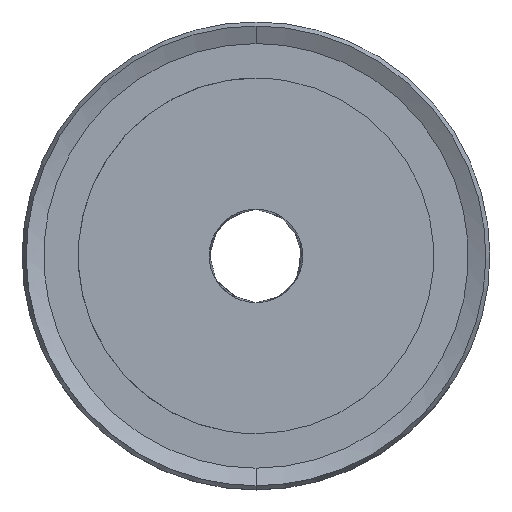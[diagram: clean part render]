
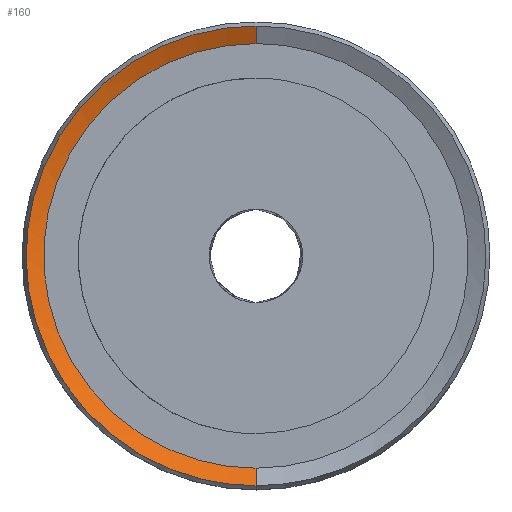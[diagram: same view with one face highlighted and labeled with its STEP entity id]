
A CAD part, top view. The second image highlights one B-rep face of the part: STEP entity #160.
In plain terms, the highlighted free-form (B-spline) face has degree [1, 2] with [2, 9] control points.
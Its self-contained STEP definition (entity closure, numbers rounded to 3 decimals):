
#36=PLANE('',#18579);
#160=ADVANCED_FACE('',(#661),#18093,.T.);
#661=FACE_OUTER_BOUND('',#1165,.T.);
#1165=EDGE_LOOP('',(#1850,#1851,#1852,#1853));
#1850=ORIENTED_EDGE('',*,*,#13362,.T.);
#1851=ORIENTED_EDGE('',*,*,#13363,.T.);
#1852=ORIENTED_EDGE('',*,*,#13364,.T.);
#1853=ORIENTED_EDGE('',*,*,#13359,.F.);
#4537=(
BOUNDED_CURVE()
B_SPLINE_CURVE(2,(#29502,#29503,#29504,#29505,#29506),.UNSPECIFIED.,.F.,
 .F.)
B_SPLINE_CURVE_WITH_KNOTS((3,2,3),(-8.283,-6.712,-5.142),
 .UNSPECIFIED.)
CURVE()
GEOMETRIC_REPRESENTATION_ITEM()
RATIONAL_B_SPLINE_CURVE((1.,0.707,1.,0.707,1.))
REPRESENTATION_ITEM('')
);
#4538=(
BOUNDED_CURVE()
B_SPLINE_CURVE(2,(#29507,#29508,#29509,#29510,#29511),.UNSPECIFIED.,.F.,
 .F.)
B_SPLINE_CURVE_WITH_KNOTS((3,2,3),(-8.283,-6.712,-5.142),
 .UNSPECIFIED.)
CURVE()
GEOMETRIC_REPRESENTATION_ITEM()
RATIONAL_B_SPLINE_CURVE((1.,0.707,1.,0.707,1.))
REPRESENTATION_ITEM('')
);
#4544=(
BOUNDED_CURVE()
B_SPLINE_CURVE(2,(#29541,#29542,#29543,#29544,#29545),.UNSPECIFIED.,.F.,
 .F.)
B_SPLINE_CURVE_WITH_KNOTS((3,2,3),(1.,2.571,4.142),
 .UNSPECIFIED.)
CURVE()
GEOMETRIC_REPRESENTATION_ITEM()
RATIONAL_B_SPLINE_CURVE((1.,0.707,1.,0.707,1.))
REPRESENTATION_ITEM('')
);
#6414=PCURVE('',#36,#9234);
#6418=PCURVE('',#18093,#9238);
#6419=PCURVE('',#18093,#9239);
#6420=PCURVE('',#18093,#9240);
#6421=PCURVE('',#18093,#9241);
#8897=PCURVE('',#18509,#11717);
#8898=PCURVE('',#18510,#11718);
#8900=PCURVE('',#18510,#11720);
#9234=DEFINITIONAL_REPRESENTATION('',(#4538),#40772);
#9238=DEFINITIONAL_REPRESENTATION('',(#14899),#40772);
#9239=DEFINITIONAL_REPRESENTATION('',(#14900),#40772);
#9240=DEFINITIONAL_REPRESENTATION('',(#14902),#40772);
#9241=DEFINITIONAL_REPRESENTATION('',(#14903),#40772);
#11717=DEFINITIONAL_REPRESENTATION('',(#17029),#40772);
#11718=DEFINITIONAL_REPRESENTATION('',(#17030),#40772);
#11720=DEFINITIONAL_REPRESENTATION('',(#17032),#40772);
#11949=SURFACE_CURVE('',#4537,(#6414,#6421),.PCURVE_S1.);
#11952=SURFACE_CURVE('',#14898,(#6418,#8898),.PCURVE_S1.);
#11953=SURFACE_CURVE('',#4544,(#6419,#8897),.PCURVE_S1.);
#11954=SURFACE_CURVE('',#14901,(#6420,#8900),.PCURVE_S1.);
#13359=EDGE_CURVE('',#17203,#17206,#11949,.T.);
#13362=EDGE_CURVE('',#17203,#17204,#11952,.T.);
#13363=EDGE_CURVE('',#17204,#17205,#11953,.T.);
#13364=EDGE_CURVE('',#17205,#17206,#11954,.T.);
#14898=B_SPLINE_CURVE_WITH_KNOTS('',1,(#29537,#29538),.UNSPECIFIED.,.F.,
 .F.,(2,2),(0.,1.),.UNSPECIFIED.);
#14899=B_SPLINE_CURVE_WITH_KNOTS('',1,(#29539,#29540),.UNSPECIFIED.,.F.,
 .F.,(2,2),(0.,1.),.UNSPECIFIED.);
#14900=B_SPLINE_CURVE_WITH_KNOTS('',1,(#29546,#29547),.UNSPECIFIED.,.F.,
 .F.,(2,2),(1.,4.142),.UNSPECIFIED.);
#14901=B_SPLINE_CURVE_WITH_KNOTS('',1,(#29548,#29549),.UNSPECIFIED.,.F.,
 .F.,(2,2),(4.142,5.142),.UNSPECIFIED.);
#14902=B_SPLINE_CURVE_WITH_KNOTS('',1,(#29550,#29551),.UNSPECIFIED.,.F.,
 .F.,(2,2),(4.142,5.142),.UNSPECIFIED.);
#14903=B_SPLINE_CURVE_WITH_KNOTS('',1,(#29552,#29553),.UNSPECIFIED.,.F.,
 .F.,(2,2),(-8.283,-5.142),.UNSPECIFIED.);
#17029=B_SPLINE_CURVE_WITH_KNOTS('',1,(#39745,#39746),.UNSPECIFIED.,.F.,
 .F.,(2,2),(1.,4.142),.UNSPECIFIED.);
#17030=B_SPLINE_CURVE_WITH_KNOTS('',1,(#39747,#39748),.UNSPECIFIED.,.F.,
 .F.,(2,2),(0.,1.),.UNSPECIFIED.);
#17032=B_SPLINE_CURVE_WITH_KNOTS('',1,(#39751,#39752),.UNSPECIFIED.,.F.,
 .F.,(2,2),(4.142,5.142),.UNSPECIFIED.);
#17203=VERTEX_POINT('',#28546);
#17204=VERTEX_POINT('',#28547);
#17205=VERTEX_POINT('',#28548);
#17206=VERTEX_POINT('',#28549);
#18093=(
BOUNDED_SURFACE()
B_SPLINE_SURFACE(1,2,((#20986,#20987,#20988,#20989,#20990,#20991,#20992,
#20993,#20994),(#20995,#20996,#20997,#20998,#20999,#21000,#21001,#21002,
#21003)),.UNSPECIFIED.,.F.,.F.,.F.)
B_SPLINE_SURFACE_WITH_KNOTS((2,2),(3,2,2,2,3),(0.,1.),(0.,1.571,
3.142,4.712,6.283),.UNSPECIFIED.)
GEOMETRIC_REPRESENTATION_ITEM()
RATIONAL_B_SPLINE_SURFACE(((1.,0.707,1.,0.707,1.,
0.707,1.,0.707,1.),(1.,0.707,1.,0.707,
1.,0.707,1.,0.707,1.)))
REPRESENTATION_ITEM('')
SURFACE()
);
#18509=(
BOUNDED_SURFACE()
B_SPLINE_SURFACE(1,2,((#28479,#28480,#28481,#28482,#28483,#28484,#28485,
#28486,#28487),(#28488,#28489,#28490,#28491,#28492,#28493,#28494,#28495,
#28496)),.UNSPECIFIED.,.F.,.F.,.F.)
B_SPLINE_SURFACE_WITH_KNOTS((2,2),(3,2,2,2,3),(0.,1.),(0.,1.571,
3.142,4.712,6.283),.UNSPECIFIED.)
GEOMETRIC_REPRESENTATION_ITEM()
RATIONAL_B_SPLINE_SURFACE(((1.,0.707,1.,0.707,1.,
0.707,1.,0.707,1.),(1.,0.707,1.,0.707,
1.,0.707,1.,0.707,1.)))
REPRESENTATION_ITEM('')
SURFACE()
);
#18510=(
BOUNDED_SURFACE()
B_SPLINE_SURFACE(1,2,((#28497,#28498,#28499,#28500,#28501,#28502,#28503,
#28504,#28505),(#28506,#28507,#28508,#28509,#28510,#28511,#28512,#28513,
#28514)),.UNSPECIFIED.,.F.,.F.,.F.)
B_SPLINE_SURFACE_WITH_KNOTS((2,2),(3,2,2,2,3),(0.,1.),(0.,1.571,
3.142,4.712,6.283),.UNSPECIFIED.)
GEOMETRIC_REPRESENTATION_ITEM()
RATIONAL_B_SPLINE_SURFACE(((1.,0.707,1.,0.707,1.,
0.707,1.,0.707,1.),(1.,0.707,1.,0.707,
1.,0.707,1.,0.707,1.)))
REPRESENTATION_ITEM('')
SURFACE()
);
#18579=AXIS2_PLACEMENT_3D('',#20985,#18610,$);
#18610=DIRECTION('',(0.,0.,1.));
#20985=CARTESIAN_POINT('',(22.692,-22.692,22.));
#20986=CARTESIAN_POINT('',(0.,34.743,27.793));
#20987=CARTESIAN_POINT('',(34.743,34.743,27.793));
#20988=CARTESIAN_POINT('',(34.743,0.,27.793));
#20989=CARTESIAN_POINT('',(34.743,-34.743,27.793));
#20990=CARTESIAN_POINT('',(0.,-34.743,27.793));
#20991=CARTESIAN_POINT('',(-34.743,-34.743,27.793));
#20992=CARTESIAN_POINT('',(-34.743,0.,27.793));
#20993=CARTESIAN_POINT('',(-34.743,34.743,27.793));
#20994=CARTESIAN_POINT('',(0.,34.743,27.793));
#20995=CARTESIAN_POINT('',(0.,0.,11.09));
#20996=CARTESIAN_POINT('',(0.,0.,11.09));
#20997=CARTESIAN_POINT('',(0.,0.,11.09));
#20998=CARTESIAN_POINT('',(0.,0.,11.09));
#20999=CARTESIAN_POINT('',(0.,0.,11.09));
#21000=CARTESIAN_POINT('',(0.,0.,11.09));
#21001=CARTESIAN_POINT('',(0.,0.,11.09));
#21002=CARTESIAN_POINT('',(0.,0.,11.09));
#21003=CARTESIAN_POINT('',(0.,0.,11.09));
#28479=CARTESIAN_POINT('',(0.,24.567,22.901));
#28480=CARTESIAN_POINT('',(-24.567,24.567,22.901));
#28481=CARTESIAN_POINT('',(-24.567,0.,22.901));
#28482=CARTESIAN_POINT('',(-24.567,-24.567,22.901));
#28483=CARTESIAN_POINT('',(0.,-24.567,22.901));
#28484=CARTESIAN_POINT('',(24.567,-24.567,22.901));
#28485=CARTESIAN_POINT('',(24.567,0.,22.901));
#28486=CARTESIAN_POINT('',(24.567,24.567,22.901));
#28487=CARTESIAN_POINT('',(0.,24.567,22.901));
#28488=CARTESIAN_POINT('',(0.,25.,22.));
#28489=CARTESIAN_POINT('',(-25.,25.,22.));
#28490=CARTESIAN_POINT('',(-25.,0.,22.));
#28491=CARTESIAN_POINT('',(-25.,-25.,22.));
#28492=CARTESIAN_POINT('',(0.,-25.,22.));
#28493=CARTESIAN_POINT('',(25.,-25.,22.));
#28494=CARTESIAN_POINT('',(25.,0.,22.));
#28495=CARTESIAN_POINT('',(25.,25.,22.));
#28496=CARTESIAN_POINT('',(0.,25.,22.));
#28497=CARTESIAN_POINT('',(0.,34.743,27.793));
#28498=CARTESIAN_POINT('',(34.743,34.743,27.793));
#28499=CARTESIAN_POINT('',(34.743,0.,27.793));
#28500=CARTESIAN_POINT('',(34.743,-34.743,27.793));
#28501=CARTESIAN_POINT('',(0.,-34.743,27.793));
#28502=CARTESIAN_POINT('',(-34.743,-34.743,27.793));
#28503=CARTESIAN_POINT('',(-34.743,0.,27.793));
#28504=CARTESIAN_POINT('',(-34.743,34.743,27.793));
#28505=CARTESIAN_POINT('',(0.,34.743,27.793));
#28506=CARTESIAN_POINT('',(0.,0.,11.09));
#28507=CARTESIAN_POINT('',(0.,0.,11.09));
#28508=CARTESIAN_POINT('',(0.,0.,11.09));
#28509=CARTESIAN_POINT('',(0.,0.,11.09));
#28510=CARTESIAN_POINT('',(0.,0.,11.09));
#28511=CARTESIAN_POINT('',(0.,0.,11.09));
#28512=CARTESIAN_POINT('',(0.,0.,11.09));
#28513=CARTESIAN_POINT('',(0.,0.,11.09));
#28514=CARTESIAN_POINT('',(0.,0.,11.09));
#28546=CARTESIAN_POINT('',(0.,22.692,22.));
#28547=CARTESIAN_POINT('',(0.,24.567,22.901));
#28548=CARTESIAN_POINT('',(0.,-24.567,22.901));
#28549=CARTESIAN_POINT('',(0.,-22.692,22.));
#29502=CARTESIAN_POINT('',(0.,22.692,22.));
#29503=CARTESIAN_POINT('',(-22.692,22.692,22.));
#29504=CARTESIAN_POINT('',(-22.692,0.,22.));
#29505=CARTESIAN_POINT('',(-22.692,-22.692,22.));
#29506=CARTESIAN_POINT('',(0.,-22.692,22.));
#29507=CARTESIAN_POINT('',(1.,0.5));
#29508=CARTESIAN_POINT('',(1.,1.));
#29509=CARTESIAN_POINT('',(0.5,1.));
#29510=CARTESIAN_POINT('',(0.,1.));
#29511=CARTESIAN_POINT('',(0.,0.5));
#29537=CARTESIAN_POINT('',(0.,22.692,22.));
#29538=CARTESIAN_POINT('',(0.,24.567,22.901));
#29539=CARTESIAN_POINT('',(0.347,6.283));
#29540=CARTESIAN_POINT('',(0.293,6.283));
#29541=CARTESIAN_POINT('',(0.,24.567,22.901));
#29542=CARTESIAN_POINT('',(-24.567,24.567,22.901));
#29543=CARTESIAN_POINT('',(-24.567,0.,22.901));
#29544=CARTESIAN_POINT('',(-24.567,-24.567,22.901));
#29545=CARTESIAN_POINT('',(0.,-24.567,22.901));
#29546=CARTESIAN_POINT('',(0.293,6.283));
#29547=CARTESIAN_POINT('',(0.293,3.142));
#29548=CARTESIAN_POINT('',(0.,-24.567,22.901));
#29549=CARTESIAN_POINT('',(0.,-22.692,22.));
#29550=CARTESIAN_POINT('',(0.293,3.142));
#29551=CARTESIAN_POINT('',(0.347,3.142));
#29552=CARTESIAN_POINT('',(0.347,6.283));
#29553=CARTESIAN_POINT('',(0.347,3.142));
#39745=CARTESIAN_POINT('',(0.,0.));
#39746=CARTESIAN_POINT('',(0.,3.142));
#39747=CARTESIAN_POINT('',(0.347,0.));
#39748=CARTESIAN_POINT('',(0.293,0.));
#39751=CARTESIAN_POINT('',(0.293,3.142));
#39752=CARTESIAN_POINT('',(0.347,3.142));
#40772=(
GEOMETRIC_REPRESENTATION_CONTEXT(2)
PARAMETRIC_REPRESENTATION_CONTEXT()
REPRESENTATION_CONTEXT('pspace','')
);
